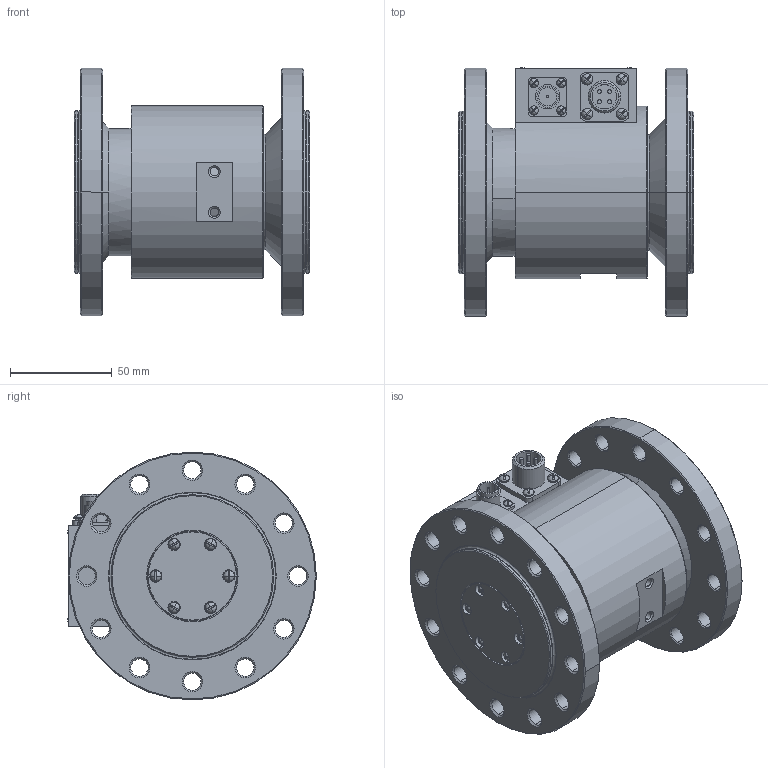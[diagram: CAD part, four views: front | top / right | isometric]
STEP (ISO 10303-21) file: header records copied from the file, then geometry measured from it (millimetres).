
FILE_DESCRIPTION (( 'STEP AP214' ), '1' );
FILE_NAME ('M20C-1K.STEP', '2019-01-14T06:54:29', ( 'Alex509' ), ( '' ), 'SwSTEP 2.0', 'SolidWorks 2017', '' );
FILE_SCHEMA (( 'AUTOMOTIVE_DESIGN' ));
Length unit declared in the file: millimetre
Products named in the file (1): M20C-1K
Bounding box: 116 x 122.34 x 122 mm (x, y, z)
Volume: 561747.8 mm3; surface area: 158904.2 mm2
Topology: 2 solids, 33 shells, 1239 faces, 2897 edges, 1792 vertices
Faces by surface type: cylinder 489, cone 340, plane 336, sphere 56, torus 18
Entity records: 50904 total; most frequent: CARTESIAN_POINT 8214, DIRECTION 6578, ORIENTED_EDGE 5702, EDGE_CURVE 2851, AXIS2_PLACEMENT_3D 2752, VERTEX_POINT 1792, CIRCLE 1512, EDGE_LOOP 1475
